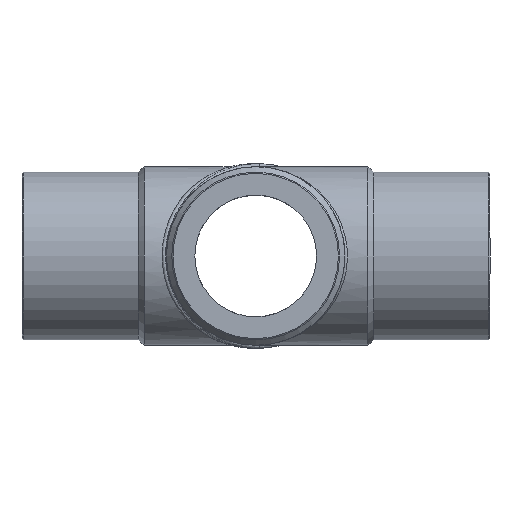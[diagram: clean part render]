
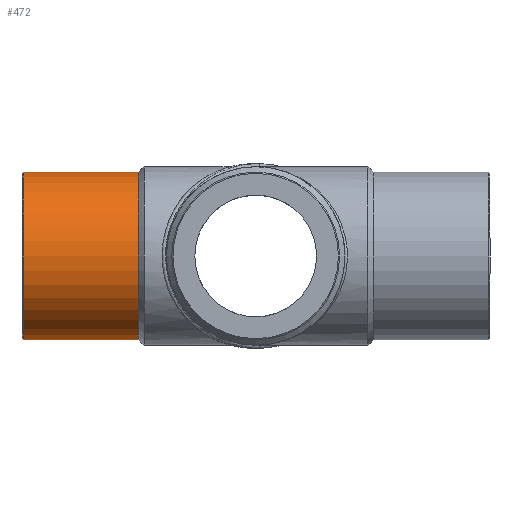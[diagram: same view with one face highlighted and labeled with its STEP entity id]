
A CAD part, front view. The second image highlights one B-rep face of the part: STEP entity #472.
In plain terms, the highlighted cylindrical face has radius 70 mm (diameter 140 mm), a full revolution.
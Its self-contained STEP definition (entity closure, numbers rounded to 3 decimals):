
#46=CIRCLE('',#536,70.);
#47=CIRCLE('',#538,70.);
#70=CYLINDRICAL_SURFACE('',#537,70.);
#123=ORIENTED_EDGE('',*,*,#241,.T.);
#124=ORIENTED_EDGE('',*,*,#240,.T.);
#240=EDGE_CURVE('',#299,#299,#46,.T.);
#241=EDGE_CURVE('',#300,#300,#47,.T.);
#299=VERTEX_POINT('',#916);
#300=VERTEX_POINT('',#919);
#354=EDGE_LOOP('',(#123));
#355=EDGE_LOOP('',(#124));
#412=FACE_BOUND('',#354,.T.);
#413=FACE_BOUND('',#355,.T.);
#472=ADVANCED_FACE('',(#412,#413),#70,.T.);
#536=AXIS2_PLACEMENT_3D('',#915,#610,#611);
#537=AXIS2_PLACEMENT_3D('',#917,#612,#613);
#538=AXIS2_PLACEMENT_3D('',#918,#614,#615);
#610=DIRECTION('',(-1.,0.,0.));
#611=DIRECTION('',(0.,0.,1.));
#612=DIRECTION('',(-1.,0.,0.));
#613=DIRECTION('',(0.,0.,1.));
#614=DIRECTION('',(1.,0.,0.));
#615=DIRECTION('',(0.,0.,-1.));
#915=CARTESIAN_POINT('',(-98.,0.,0.));
#916=CARTESIAN_POINT('',(-98.,0.,70.));
#917=CARTESIAN_POINT('',(-60.,0.,0.));
#918=CARTESIAN_POINT('',(-194.,0.,0.));
#919=CARTESIAN_POINT('',(-194.,0.,-70.));
